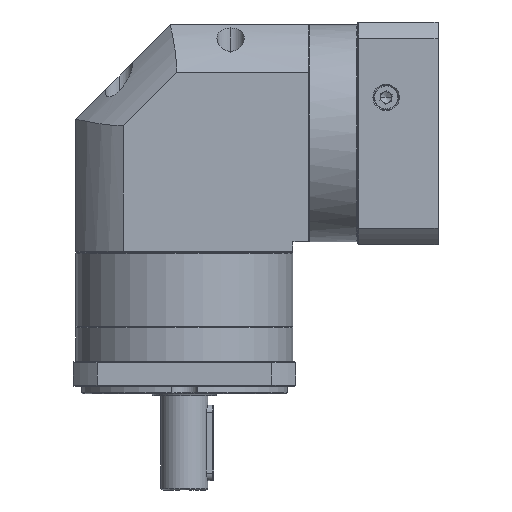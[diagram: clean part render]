
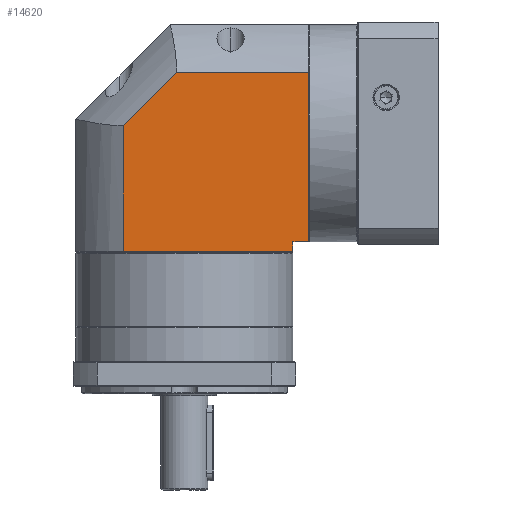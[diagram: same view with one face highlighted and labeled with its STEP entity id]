
A CAD part, front view. The second image highlights one B-rep face of the part: STEP entity #14620.
In plain terms, the highlighted planar face has unit normal (0, -1, 0).
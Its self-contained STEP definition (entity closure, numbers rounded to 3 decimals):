
#377 = ORIENTED_EDGE ( 'NONE', *, *, #102662, .F. ) ;
#2340 = CARTESIAN_POINT ( 'NONE',  ( 4.068, 21.647, -23.778 ) ) ;
#2373 = CARTESIAN_POINT ( 'NONE',  ( 127.468, 21.647, 71.122 ) ) ;
#2790 = PLANE ( 'NONE',  #91524 ) ;
#8230 = LINE ( 'NONE', #118881, #128042 ) ;
#9540 = CARTESIAN_POINT ( 'NONE',  ( 119.068, 21.647, -23.778 ) ) ;
#10839 = EDGE_CURVE ( 'NONE', #94476, #116376, #77758, .T. ) ;
#11591 = VERTEX_POINT ( 'NONE', #9540 ) ;
#14620 = ADVANCED_FACE ( 'NONE', ( #25694 ), #2790, .F. ) ;
#15475 = LINE ( 'NONE', #68540, #30086 ) ;
#18214 = VERTEX_POINT ( 'NONE', #28443 ) ;
#22357 = VERTEX_POINT ( 'NONE', #31819 ) ;
#25327 = DIRECTION ( 'NONE',  ( 0., 0., 1. ) ) ;
#25694 = FACE_OUTER_BOUND ( 'NONE', #89449, .T. ) ;
#26929 = LINE ( 'NONE', #35409, #49694 ) ;
#28443 = CARTESIAN_POINT ( 'NONE',  ( 29.168, 21.647, -23.778 ) ) ;
#29247 = ORIENTED_EDGE ( 'NONE', *, *, #103271, .F. ) ;
#30086 = VECTOR ( 'NONE', #109771, 1000. ) ;
#31819 = CARTESIAN_POINT ( 'NONE',  ( 119.068, 21.647, -18.778 ) ) ;
#32332 = DIRECTION ( 'NONE',  ( -1., 0., 0. ) ) ;
#35332 = CARTESIAN_POINT ( 'NONE',  ( 29.168, 21.647, -30.278 ) ) ;
#35409 = CARTESIAN_POINT ( 'NONE',  ( 29.168, 21.647, 42.784 ) ) ;
#36011 = CARTESIAN_POINT ( 'NONE',  ( 29.168, 21.647, 42.784 ) ) ;
#36032 = VERTEX_POINT ( 'NONE', #36011 ) ;
#39860 = EDGE_CURVE ( 'NONE', #22357, #11591, #68167, .T. ) ;
#39917 = ORIENTED_EDGE ( 'NONE', *, *, #39860, .F. ) ;
#43415 = CARTESIAN_POINT ( 'NONE',  ( 127.468, 21.647, -18.778 ) ) ;
#45496 = VECTOR ( 'NONE', #56649, 1000. ) ;
#46427 = VERTEX_POINT ( 'NONE', #43415 ) ;
#49694 = VECTOR ( 'NONE', #75687, 1000. ) ;
#56649 = DIRECTION ( 'NONE',  ( 1., 0., 0. ) ) ;
#57247 = LINE ( 'NONE', #35332, #109060 ) ;
#67147 = EDGE_CURVE ( 'NONE', #36032, #94476, #26929, .T. ) ;
#67680 = DIRECTION ( 'NONE',  ( -1., 0., 0. ) ) ;
#68167 = LINE ( 'NONE', #115821, #129653 ) ;
#68540 = CARTESIAN_POINT ( 'NONE',  ( 127.468, 21.647, -30.278 ) ) ;
#75265 = DIRECTION ( 'NONE',  ( 1., 0., 0. ) ) ;
#75687 = DIRECTION ( 'NONE',  ( 0.707, 0., 0.707 ) ) ;
#75907 = EDGE_CURVE ( 'NONE', #116376, #46427, #15475, .T. ) ;
#76150 = DIRECTION ( 'NONE',  ( 0., 1., 0. ) ) ;
#77758 = LINE ( 'NONE', #94231, #45496 ) ;
#81011 = ORIENTED_EDGE ( 'NONE', *, *, #113267, .F. ) ;
#89449 = EDGE_LOOP ( 'NONE', ( #39917, #29247, #104325, #130367, #126994, #377, #81011 ) ) ;
#91524 = AXIS2_PLACEMENT_3D ( 'NONE', #96948, #76150, #75265 ) ;
#94231 = CARTESIAN_POINT ( 'NONE',  ( 4.068, 21.647, 71.122 ) ) ;
#94476 = VERTEX_POINT ( 'NONE', #104257 ) ;
#95449 = DIRECTION ( 'NONE',  ( 0., 0., -1. ) ) ;
#96948 = CARTESIAN_POINT ( 'NONE',  ( 4.068, 21.647, -30.278 ) ) ;
#102662 = EDGE_CURVE ( 'NONE', #18214, #36032, #57247, .T. ) ;
#103271 = EDGE_CURVE ( 'NONE', #46427, #22357, #8230, .T. ) ;
#104257 = CARTESIAN_POINT ( 'NONE',  ( 57.506, 21.647, 71.122 ) ) ;
#104325 = ORIENTED_EDGE ( 'NONE', *, *, #75907, .F. ) ;
#109060 = VECTOR ( 'NONE', #25327, 1000. ) ;
#109771 = DIRECTION ( 'NONE',  ( 0., 0., -1. ) ) ;
#113267 = EDGE_CURVE ( 'NONE', #11591, #18214, #129975, .T. ) ;
#115821 = CARTESIAN_POINT ( 'NONE',  ( 119.068, 21.647, -30.278 ) ) ;
#116376 = VERTEX_POINT ( 'NONE', #2373 ) ;
#118800 = VECTOR ( 'NONE', #32332, 1000. ) ;
#118881 = CARTESIAN_POINT ( 'NONE',  ( 4.068, 21.647, -18.778 ) ) ;
#126994 = ORIENTED_EDGE ( 'NONE', *, *, #67147, .F. ) ;
#128042 = VECTOR ( 'NONE', #67680, 1000. ) ;
#129653 = VECTOR ( 'NONE', #95449, 1000. ) ;
#129975 = LINE ( 'NONE', #2340, #118800 ) ;
#130367 = ORIENTED_EDGE ( 'NONE', *, *, #10839, .F. ) ;
